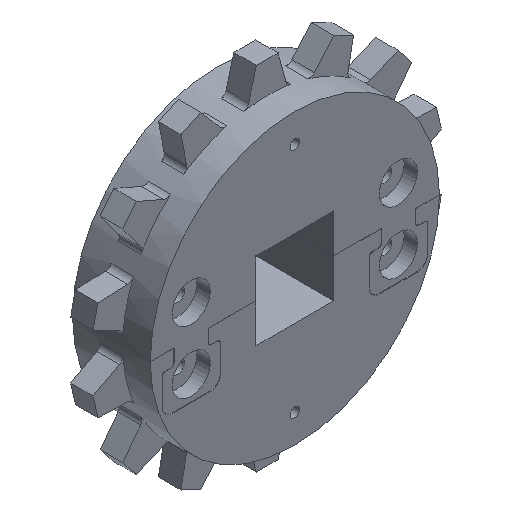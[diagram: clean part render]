
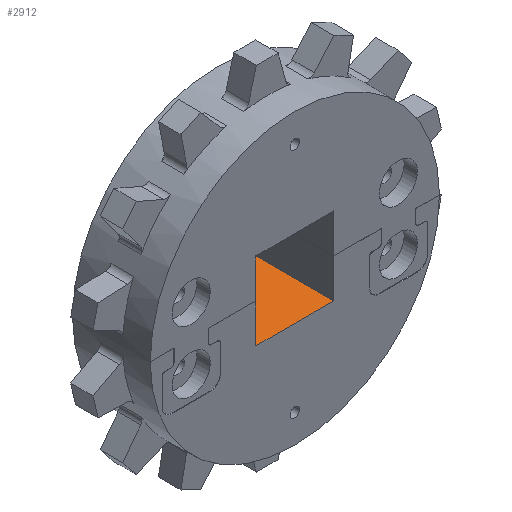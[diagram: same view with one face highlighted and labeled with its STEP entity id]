
A CAD part, isometric view. The second image highlights one B-rep face of the part: STEP entity #2912.
In plain terms, the highlighted planar face has unit normal (0, 0, 1) as drawn and (0, -1, 0) by its records, which use the part's own axes.
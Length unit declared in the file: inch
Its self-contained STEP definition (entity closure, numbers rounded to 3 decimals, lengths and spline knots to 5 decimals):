
#192=DIRECTION('',(-1.,0.,0.));
#193=VECTOR('',#192,1.5);
#194=CARTESIAN_POINT('',(0.75,0.75,0.7478));
#195=LINE('',#194,#193);
#706=DIRECTION('',(-1.,0.,0.));
#707=VECTOR('',#706,1.5);
#708=CARTESIAN_POINT('',(0.75,0.75,-0.7478));
#709=LINE('',#708,#707);
#854=DIRECTION('',(0.,0.,-1.));
#855=VECTOR('',#854,1.49559);
#856=CARTESIAN_POINT('',(-0.75,0.75,0.7478));
#857=LINE('',#856,#855);
#858=DIRECTION('',(0.,0.,-1.));
#859=VECTOR('',#858,1.49559);
#860=CARTESIAN_POINT('',(0.75,0.75,0.7478));
#861=LINE('',#860,#859);
#2067=CARTESIAN_POINT('',(-0.75,0.75,-0.7478));
#2069=VERTEX_POINT('',#2067);
#2071=CARTESIAN_POINT('',(0.75,0.75,-0.7478));
#2073=VERTEX_POINT('',#2071);
#2078=CARTESIAN_POINT('',(-0.75,0.75,0.7478));
#2079=VERTEX_POINT('',#2078);
#2080=CARTESIAN_POINT('',(0.75,0.75,0.7478));
#2081=VERTEX_POINT('',#2080);
#2900=CARTESIAN_POINT('',(0.75,0.75,0.89736));
#2901=DIRECTION('',(0.,1.,0.));
#2902=DIRECTION('',(-1.,0.,0.));
#2903=AXIS2_PLACEMENT_3D('',#2900,#2901,#2902);
#2904=PLANE('',#2903);
#2905=ORIENTED_EDGE('',*,*,#2791,.T.);
#2906=ORIENTED_EDGE('',*,*,#2895,.F.);
#2907=ORIENTED_EDGE('',*,*,#2153,.F.);
#2909=ORIENTED_EDGE('',*,*,#2908,.T.);
#2910=EDGE_LOOP('',(#2905,#2906,#2907,#2909));
#2911=FACE_OUTER_BOUND('',#2910,.F.);
#2912=ADVANCED_FACE('',(#2911),#2904,.F.);
#2153=EDGE_CURVE('',#2081,#2079,#195,.T.);
#2791=EDGE_CURVE('',#2073,#2069,#709,.T.);
#2895=EDGE_CURVE('',#2079,#2069,#857,.T.);
#2908=EDGE_CURVE('',#2081,#2073,#861,.T.);
